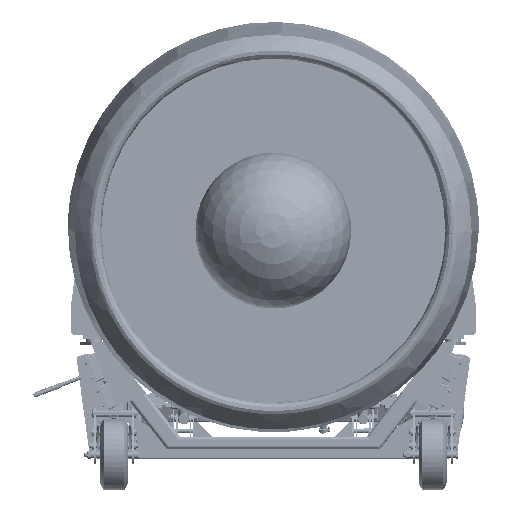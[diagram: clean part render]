
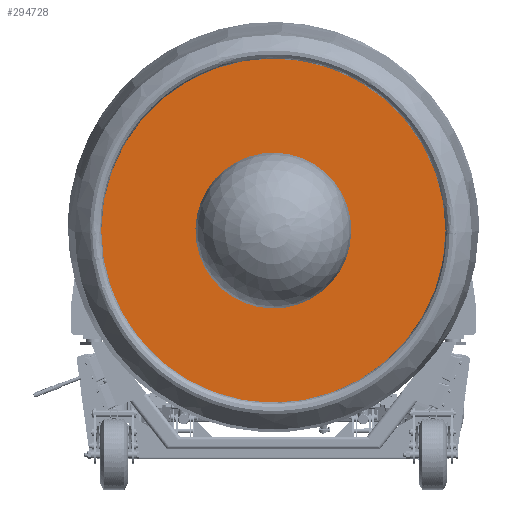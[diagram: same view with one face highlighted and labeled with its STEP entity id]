
A CAD part, front view. The second image highlights one B-rep face of the part: STEP entity #294728.
In plain terms, the highlighted planar face has unit normal (0, -1, 0).
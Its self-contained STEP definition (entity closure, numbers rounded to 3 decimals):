
#293513=CARTESIAN_POINT('Axis2P3D Location',(0.,-806.45,0.)) ;
#293517=CARTESIAN_POINT('Vertex',(1087.112,-806.45,593.892)) ;
#293519=CARTESIAN_POINT('Vertex',(-1087.112,-806.45,-593.892)) ;
#293548=CARTESIAN_POINT('Axis2P3D Location',(0.,-806.45,0.)) ;
#294559=CARTESIAN_POINT('Vertex',(456.875,-806.45,249.592)) ;
#294562=CARTESIAN_POINT('Axis2P3D Location',(0.,-806.45,0.)) ;
#294566=CARTESIAN_POINT('Vertex',(-456.875,-806.45,-249.592)) ;
#294581=CARTESIAN_POINT('Axis2P3D Location',(0.,-806.45,0.)) ;
#294715=CARTESIAN_POINT('Axis2P3D Location',(1238.758,-806.45,0.)) ;
#293514=DIRECTION('Axis2P3D Direction',(0.,-1.,0.)) ;
#293549=DIRECTION('Axis2P3D Direction',(0.,-1.,0.)) ;
#294563=DIRECTION('Axis2P3D Direction',(0.,-1.,0.)) ;
#294582=DIRECTION('Axis2P3D Direction',(0.,-1.,0.)) ;
#294716=DIRECTION('Axis2P3D Direction',(0.,-1.,0.)) ;
#294717=DIRECTION('Axis2P3D XDirection',(1.,0.,0.)) ;
#293515=AXIS2_PLACEMENT_3D('Circle Axis2P3D',#293513,#293514,$) ;
#293550=AXIS2_PLACEMENT_3D('Circle Axis2P3D',#293548,#293549,$) ;
#294564=AXIS2_PLACEMENT_3D('Circle Axis2P3D',#294562,#294563,$) ;
#294583=AXIS2_PLACEMENT_3D('Circle Axis2P3D',#294581,#294582,$) ;
#294718=AXIS2_PLACEMENT_3D('Plane Axis2P3D',#294715,#294716,#294717) ;
#294721=ORIENTED_EDGE('',*,*,#293552,.T.) ;
#294722=ORIENTED_EDGE('',*,*,#293521,.T.) ;
#294725=ORIENTED_EDGE('',*,*,#294568,.F.) ;
#294726=ORIENTED_EDGE('',*,*,#294585,.F.) ;
#294727=FACE_BOUND('',#294724,.T.) ;
#294728=ADVANCED_FACE('Corps principal',(#294723,#294727),#294719,.T.) ;
#293516=CIRCLE('generated circle',#293515,1238.758) ;
#293551=CIRCLE('generated circle',#293550,1238.758) ;
#294565=CIRCLE('generated circle',#294564,520.606) ;
#294584=CIRCLE('generated circle',#294583,520.606) ;
#293521=EDGE_CURVE('',#293518,#293520,#293516,.T.) ;
#293552=EDGE_CURVE('',#293520,#293518,#293551,.T.) ;
#294568=EDGE_CURVE('',#294560,#294567,#294565,.T.) ;
#294585=EDGE_CURVE('',#294567,#294560,#294584,.T.) ;
#294720=EDGE_LOOP('',(#294721,#294722)) ;
#294724=EDGE_LOOP('',(#294725,#294726)) ;
#294723=FACE_OUTER_BOUND('',#294720,.T.) ;
#294719=PLANE('Plane',#294718) ;
#293518=VERTEX_POINT('',#293517) ;
#293520=VERTEX_POINT('',#293519) ;
#294560=VERTEX_POINT('',#294559) ;
#294567=VERTEX_POINT('',#294566) ;
